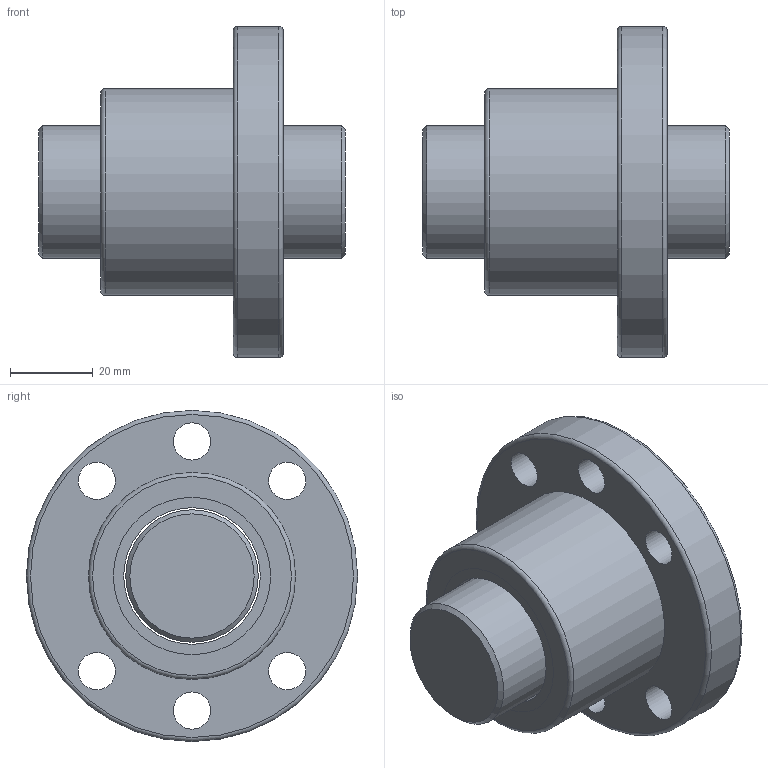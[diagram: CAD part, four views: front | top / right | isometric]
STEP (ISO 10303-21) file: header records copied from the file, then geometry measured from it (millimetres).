
FILE_DESCRIPTION(/* description */ (''),/* implementation_level */ '2;1');
FILE_NAME(/* name */ 'SFU3204',/* time_stamp */ '2007-10-26T13:29:03+08:00',/* author */ (''),/* organization */ (''),/* preprocessor_version */ 'ST-DEVELOPER v9',/* originating_system */ 'EDS PLM SOLUTIONS - UNIGRAPHICS NX 1.0',/* authorisation */ '');
FILE_SCHEMA (('CONFIG_CONTROL_DESIGN'));
Length unit declared in the file: millimetre
Products named in the file (1): FANNDA0400i6
Bounding box: 74 x 80 x 80 mm (x, y, z)
Volume: 140212.1 mm3; surface area: 34364.7 mm2
Topology: 4 solids, 4 shells, 32 faces, 58 edges, 37 vertices
Faces by surface type: cylinder 16, plane 11, torus 3, cone 2
Full cylindrical faces by diameter (mm): 9 x6, 32 x1, 33 x3, 38 x4, 50 x1, 80 x1
Entity records: 810 total; most frequent: DIRECTION 140, CARTESIAN_POINT 107, EDGE_LOOP 74, ORIENTED_EDGE 74, AXIS2_PLACEMENT_3D 70, FACE_BOUND 61, VERTEX_POINT 37, EDGE_CURVE 37
